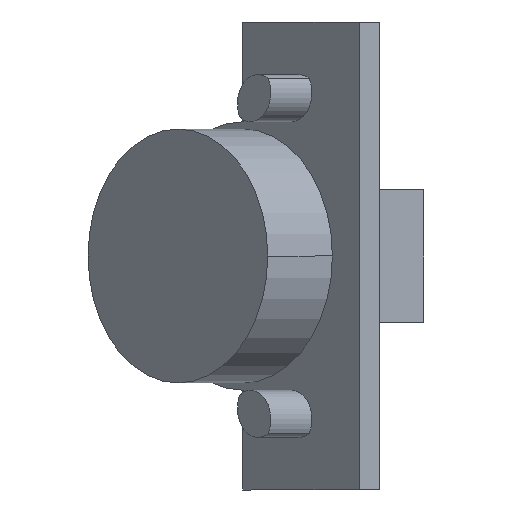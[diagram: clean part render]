
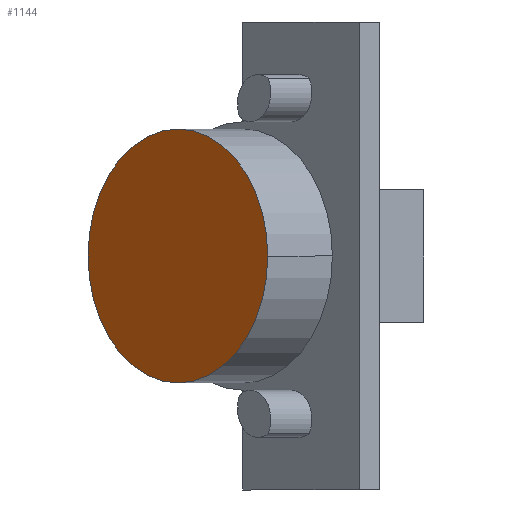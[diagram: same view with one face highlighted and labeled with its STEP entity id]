
A CAD part, front view. The second image highlights one B-rep face of the part: STEP entity #1144.
In plain terms, the highlighted planar face has unit normal (-0.707, -0.707, 0).
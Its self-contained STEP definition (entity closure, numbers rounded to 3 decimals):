
#89 = CARTESIAN_POINT ( 'NONE',  ( -6.36, -43.86, 0. ) ) ;
#164 = CARTESIAN_POINT ( 'NONE',  ( 6.015, -56.234, 0. ) ) ;
#180 = EDGE_CURVE ( 'NONE', #1191, #799, #1595, .T. ) ;
#191 = ORIENTED_EDGE ( 'NONE', *, *, #180, .T. ) ;
#232 = EDGE_CURVE ( 'NONE', #799, #1191, #679, .T. ) ;
#453 = AXIS2_PLACEMENT_3D ( 'NONE', #89, #1056, #709 ) ;
#539 = AXIS2_PLACEMENT_3D ( 'NONE', #1333, #718, #1587 ) ;
#559 = EDGE_LOOP ( 'NONE', ( #191, #678 ) ) ;
#599 = DIRECTION ( 'NONE',  ( 0.707, -0.707, 0. ) ) ;
#601 = CARTESIAN_POINT ( 'NONE',  ( -6.36, -43.86, 0. ) ) ;
#678 = ORIENTED_EDGE ( 'NONE', *, *, #232, .T. ) ;
#679 = CIRCLE ( 'NONE', #539, 17.5 ) ;
#709 = DIRECTION ( 'NONE',  ( 0.707, -0.707, 0. ) ) ;
#718 = DIRECTION ( 'NONE',  ( -0.707, -0.707, 0. ) ) ;
#799 = VERTEX_POINT ( 'NONE', #164 ) ;
#898 = FACE_OUTER_BOUND ( 'NONE', #559, .T. ) ;
#955 = PLANE ( 'NONE',  #1557 ) ;
#1056 = DIRECTION ( 'NONE',  ( -0.707, -0.707, 0. ) ) ;
#1144 = ADVANCED_FACE ( 'NONE', ( #898 ), #955, .T. ) ;
#1191 = VERTEX_POINT ( 'NONE', #1498 ) ;
#1333 = CARTESIAN_POINT ( 'NONE',  ( -6.36, -43.86, 0. ) ) ;
#1346 = DIRECTION ( 'NONE',  ( -0.707, -0.707, 0. ) ) ;
#1498 = CARTESIAN_POINT ( 'NONE',  ( -18.734, -31.485, 0. ) ) ;
#1557 = AXIS2_PLACEMENT_3D ( 'NONE', #601, #1346, #599 ) ;
#1587 = DIRECTION ( 'NONE',  ( 0.707, -0.707, 0. ) ) ;
#1595 = CIRCLE ( 'NONE', #453, 17.5 ) ;
